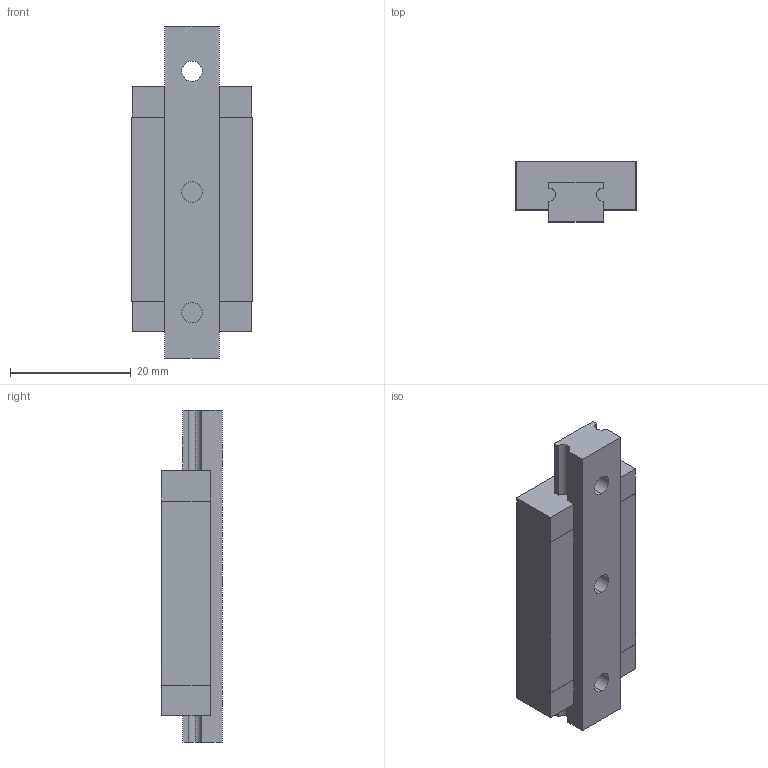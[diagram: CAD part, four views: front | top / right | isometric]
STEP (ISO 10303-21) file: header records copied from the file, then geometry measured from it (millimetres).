
FILE_DESCRIPTION (( 'STEP AP203' ), '1' );
FILE_NAME ('MCM 9L.STEP', '2018-06-19T01:06:48', ( '' ), ( '' ), 'SwSTEP 2.0', 'SolidWorks 2016', '' );
FILE_SCHEMA (( 'CONFIG_CONTROL_DESIGN' ));
Length unit declared in the file: millimetre
Products named in the file (3): MCM TABLE 9 - 55; MCM 9L; MCM BASE 9L - 55
Assembly tree (2 placements, depth 2):
  MCM 9L
    MCM TABLE 9 - 55
    MCM BASE 9L - 55
Bounding box: 20 x 10 x 55 mm (x, y, z)
Volume: 7542.2 mm3; surface area: 5789 mm2
Topology: 4 solids, 4 shells, 87 faces, 220 edges, 140 vertices
Faces by surface type: plane 47, cylinder 32, cone 8
Entity records: 2871 total; most frequent: DIRECTION 460, CARTESIAN_POINT 444, ORIENTED_EDGE 424, EDGE_CURVE 212, AXIS2_PLACEMENT_3D 156, LINE 148, VECTOR 148, VERTEX_POINT 140
